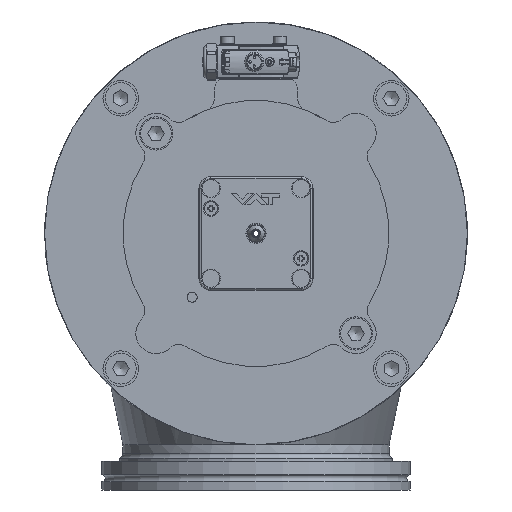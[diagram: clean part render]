
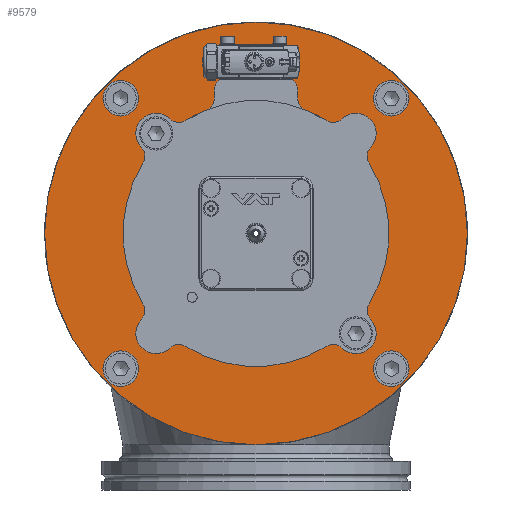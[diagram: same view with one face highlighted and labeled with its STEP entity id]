
A CAD part, left-side view. The second image highlights one B-rep face of the part: STEP entity #9579.
In plain terms, the highlighted planar face has unit normal (-1, 0, 0).
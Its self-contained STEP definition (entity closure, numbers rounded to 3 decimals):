
#9579=ADVANCED_FACE('BCT_REF_77270',(#12794,#12795,#12796,#12797,#12798,
#12799,#12800,#12801,#12802,#12803),#10738,.F.);
#10738=PLANE('',#30372);
#11623=CIRCLE('',#30310,89.);
#11654=CIRCLE('',#30363,3.4);
#11655=CIRCLE('',#30364,3.4);
#11656=CIRCLE('',#30365,3.4);
#11657=CIRCLE('',#30366,3.4);
#11658=CIRCLE('',#30367,7.5);
#11659=CIRCLE('',#30368,7.5);
#11660=CIRCLE('',#30369,7.5);
#11661=CIRCLE('',#30370,7.5);
#11662=CIRCLE('',#30371,55.145);
#12794=FACE_BOUND('',#13729,.T.);
#12795=FACE_BOUND('',#13730,.T.);
#12796=FACE_BOUND('',#13731,.T.);
#12797=FACE_BOUND('',#13732,.T.);
#12798=FACE_BOUND('',#13733,.T.);
#12799=FACE_BOUND('',#13734,.T.);
#12800=FACE_BOUND('',#13735,.T.);
#12801=FACE_BOUND('',#13736,.T.);
#12802=FACE_BOUND('',#13737,.T.);
#12803=FACE_BOUND('',#13738,.T.);
#13729=EDGE_LOOP('',(#16311));
#13730=EDGE_LOOP('',(#16312));
#13731=EDGE_LOOP('',(#16313));
#13732=EDGE_LOOP('',(#16314));
#13733=EDGE_LOOP('',(#16315));
#13734=EDGE_LOOP('',(#16316));
#13735=EDGE_LOOP('',(#16317));
#13736=EDGE_LOOP('',(#16318));
#13737=EDGE_LOOP('',(#16319));
#13738=EDGE_LOOP('',(#16320));
#16311=ORIENTED_EDGE('',*,*,#23994,.T.);
#16312=ORIENTED_EDGE('',*,*,#23995,.T.);
#16313=ORIENTED_EDGE('',*,*,#23996,.T.);
#16314=ORIENTED_EDGE('',*,*,#23997,.T.);
#16315=ORIENTED_EDGE('',*,*,#23998,.T.);
#16316=ORIENTED_EDGE('',*,*,#23999,.T.);
#16317=ORIENTED_EDGE('',*,*,#24000,.T.);
#16318=ORIENTED_EDGE('',*,*,#24001,.T.);
#16319=ORIENTED_EDGE('',*,*,#24002,.T.);
#16320=ORIENTED_EDGE('',*,*,#23955,.T.);
#21664=VERTEX_POINT('',#42706);
#21699=VERTEX_POINT('',#42895);
#21700=VERTEX_POINT('',#42897);
#21701=VERTEX_POINT('',#42899);
#21702=VERTEX_POINT('',#42901);
#21703=VERTEX_POINT('',#42903);
#21704=VERTEX_POINT('',#42905);
#21705=VERTEX_POINT('',#42907);
#21706=VERTEX_POINT('',#42909);
#21707=VERTEX_POINT('',#42911);
#23955=EDGE_CURVE('',#21664,#21664,#11623,.T.);
#23994=EDGE_CURVE('',#21699,#21699,#11654,.T.);
#23995=EDGE_CURVE('',#21700,#21700,#11655,.T.);
#23996=EDGE_CURVE('',#21701,#21701,#11656,.T.);
#23997=EDGE_CURVE('BCT_REF_77872',#21702,#21702,#11657,.T.);
#23998=EDGE_CURVE('BCT_REF_108915',#21703,#21703,#11658,.T.);
#23999=EDGE_CURVE('',#21704,#21704,#11659,.T.);
#24000=EDGE_CURVE('',#21705,#21705,#11660,.T.);
#24001=EDGE_CURVE('',#21706,#21706,#11661,.T.);
#24002=EDGE_CURVE('BCT_REF_78328',#21707,#21707,#11662,.T.);
#30310=AXIS2_PLACEMENT_3D('',#42705,#33616,#33617);
#30363=AXIS2_PLACEMENT_3D('',#42894,#33726,#33727);
#30364=AXIS2_PLACEMENT_3D('',#42896,#33728,#33729);
#30365=AXIS2_PLACEMENT_3D('',#42898,#33730,#33731);
#30366=AXIS2_PLACEMENT_3D('',#42900,#33732,#33733);
#30367=AXIS2_PLACEMENT_3D('',#42902,#33734,#33735);
#30368=AXIS2_PLACEMENT_3D('',#42904,#33736,#33737);
#30369=AXIS2_PLACEMENT_3D('',#42906,#33738,#33739);
#30370=AXIS2_PLACEMENT_3D('',#42908,#33740,#33741);
#30371=AXIS2_PLACEMENT_3D('',#42910,#33742,#33743);
#30372=AXIS2_PLACEMENT_3D('',#42912,#33744,#33745);
#33616=DIRECTION('',(-1.,0.,0.));
#33617=DIRECTION('',(0.,0.,1.));
#33726=DIRECTION('',(1.,0.,0.));
#33727=DIRECTION('',(0.,-1.,0.));
#33728=DIRECTION('',(1.,0.,0.));
#33729=DIRECTION('',(0.,0.,1.));
#33730=DIRECTION('',(1.,0.,0.));
#33731=DIRECTION('',(0.,1.,0.));
#33732=DIRECTION('',(1.,0.,0.));
#33733=DIRECTION('',(0.,0.,-1.));
#33734=DIRECTION('',(1.,0.,0.));
#33735=DIRECTION('',(0.,-1.,0.));
#33736=DIRECTION('',(1.,0.,0.));
#33737=DIRECTION('',(0.,0.,1.));
#33738=DIRECTION('',(1.,0.,0.));
#33739=DIRECTION('',(0.,1.,0.));
#33740=DIRECTION('',(1.,0.,0.));
#33741=DIRECTION('',(0.,0.,-1.));
#33742=DIRECTION('',(1.,0.,0.));
#33743=DIRECTION('',(0.,0.,-1.));
#33744=DIRECTION('',(1.,0.,0.));
#33745=DIRECTION('',(0.,0.,-1.));
#42705=CARTESIAN_POINT('',(0.,0.,0.));
#42706=CARTESIAN_POINT('',(0.,0.,89.));
#42894=CARTESIAN_POINT('',(0.,-42.073,-42.073));
#42895=CARTESIAN_POINT('',(0.,-45.473,-42.073));
#42896=CARTESIAN_POINT('',(0.,-42.073,42.073));
#42897=CARTESIAN_POINT('',(0.,-42.073,45.473));
#42898=CARTESIAN_POINT('',(0.,42.073,42.073));
#42899=CARTESIAN_POINT('',(0.,45.473,42.073));
#42900=CARTESIAN_POINT('',(0.,42.073,-42.073));
#42901=CARTESIAN_POINT('',(0.,42.073,-45.473));
#42902=CARTESIAN_POINT('',(0.,56.922,-56.922));
#42903=CARTESIAN_POINT('',(0.,49.422,-56.922));
#42904=CARTESIAN_POINT('',(0.,-56.922,-56.922));
#42905=CARTESIAN_POINT('',(0.,-56.922,-49.422));
#42906=CARTESIAN_POINT('',(0.,-56.922,56.922));
#42907=CARTESIAN_POINT('',(0.,-49.422,56.922));
#42908=CARTESIAN_POINT('',(0.,56.922,56.922));
#42909=CARTESIAN_POINT('',(0.,56.922,49.422));
#42910=CARTESIAN_POINT('',(0.,0.,0.));
#42911=CARTESIAN_POINT('',(0.,0.,-55.145));
#42912=CARTESIAN_POINT('',(0.,89.,0.));
